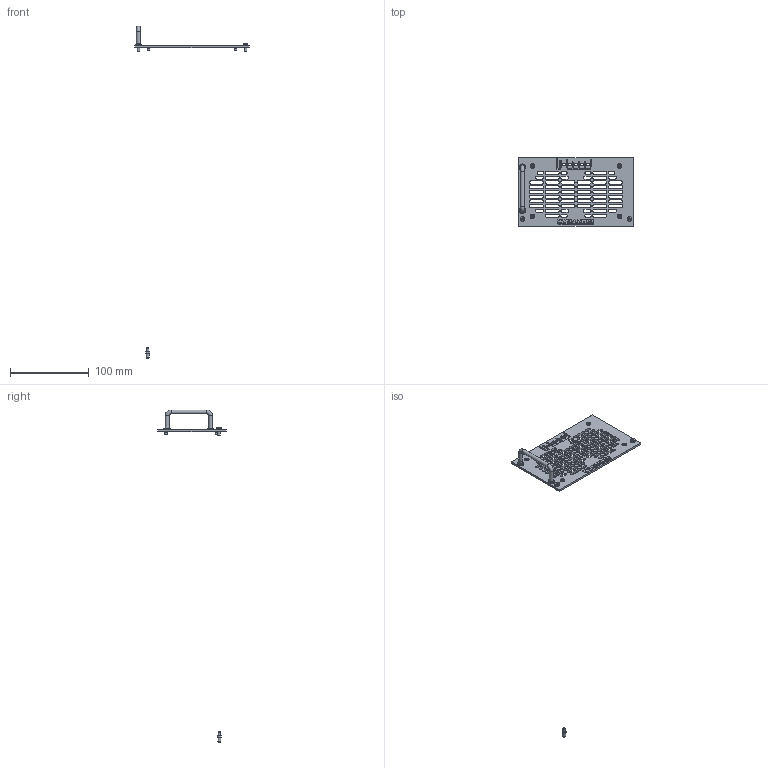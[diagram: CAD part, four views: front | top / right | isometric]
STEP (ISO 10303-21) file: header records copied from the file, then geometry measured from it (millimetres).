
FILE_DESCRIPTION(/* description */ ('FRONT PLATE 2U','CAx-IF Rec.Pracs.---Representation and Presentation of Product Manufacturing Information (PMI)---4.0---2014-10-13'),/* implementation_level */ '2;1');
FILE_NAME(/* name */ 'E:\CAMTEC_2020_Pack and Go\Subrack_2U\2201006001CA.stp',/* time_stamp */ '2020-09-21T15:40:41+02:00',/* author */ ('rryba'),/* organization */ (''),/* preprocessor_version */ 'ST-DEVELOPER v18.1',/* originating_system */ 'Autodesk Inventor 2021',/* authorisation */ '');
FILE_SCHEMA (('AP242_MANAGED_MODEL_BASED_3D_ENGINEERING_MIM_LF { 1 0 10303 442 1 1 4 }'));
Length unit declared in the file: millimetre
Products named in the file (15): 2201006001CA; 2021056002; 2081099001 (Folie bedruckt Front Plate 2U ); 2081099001; CAMTEC Logo 3D; Aufkleber_CAMTEC Logobild; Aufkleber_CAMTEC Wortbild1; Aufkleber_CAMTEC Wortbild2; 2051036002; 2530318_1; 2530318; 2530279; 2530278; 2530245; 2530320
Assembly tree (21 placements, depth 4):
  2201006001CA
    2021056002
    2081099001 (Folie bedruckt Front Plate 2U )
      2081099001
      CAMTEC Logo 3D
        Aufkleber_CAMTEC Logobild
        Aufkleber_CAMTEC Wortbild1
        Aufkleber_CAMTEC Wortbild2
    2051036002
    2530318_1  x2
    2530318
    2530279  x2
    2530278  x4
    2530245  x2
    2530320  x2
Bounding box: 145.6 x 87 x 420.6 mm (x, y, z)
Volume: 26067.3 mm3; surface area: 46765.3 mm2
Topology: 36 solids, 36 shells, 1678 faces, 5518 edges, 4858 vertices
Faces by surface type: plane 988, cylinder 320, bspline 217, cone 117, torus 34, sphere 2
Full cylindrical faces by diameter (mm): 2.459 x2, 2.693 x6, 2.75 x2, 3 x11, 3.2 x2, 3.4 x8, 3.5 x10, 3.8 x4, 4 x1, 5 x4, 5.3 x2, 5.5 x6, 5.9 x10, 6 x2, 8 x2
Entity records: 56232 total; most frequent: CARTESIAN_POINT 13455, ORIENTED_EDGE 8274, DIRECTION 7673, EDGE_CURVE 4137, LINE 2929, VECTOR 2929, VERTEX_POINT 2752, AXIS2_PLACEMENT_3D 2372
